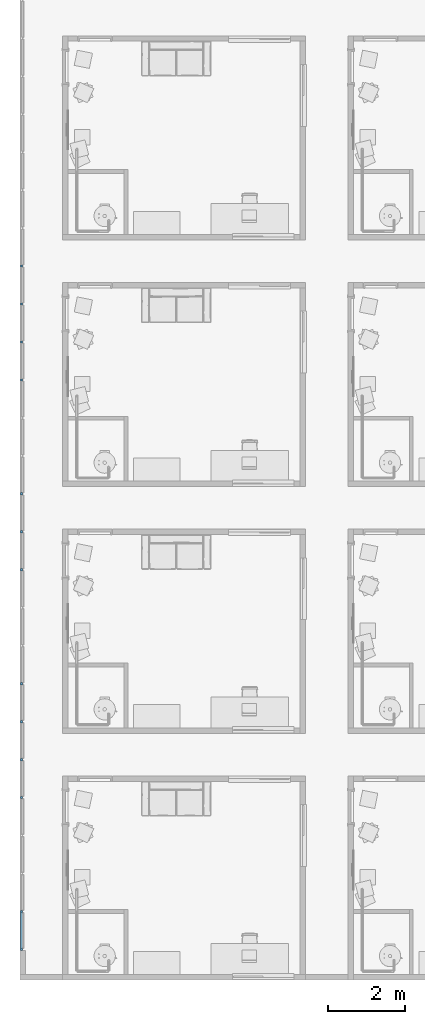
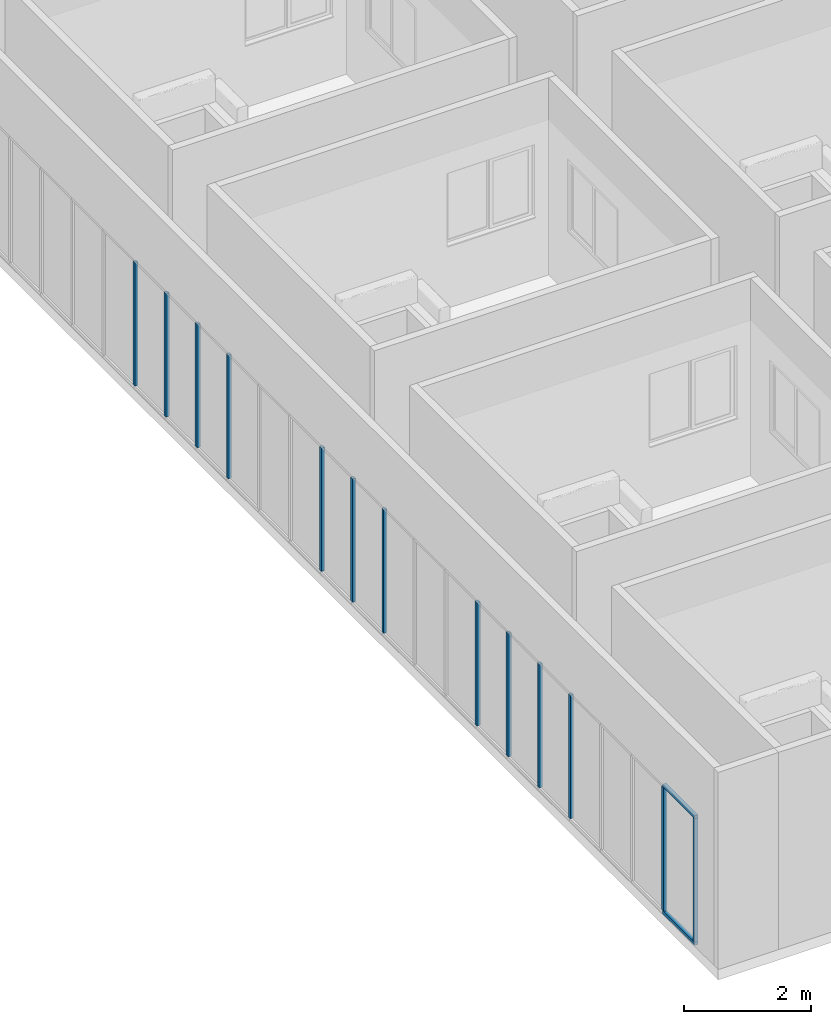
# One storey, part 1 of 72: 15 members, 1 element without a shape of its own.
"""IFC4 building model written with IfcOpenShell, lengths in centimetres."""

from ifc_helpers import new_model, entity, si_unit, converted_unit, derived_unit, direction, frame, origin, place, context, subcontext, project, spatial, indexed_curve, outline, extrude, source, transform, mapped, material, type_object, type_shapes, element, aggregate, save


model = new_model("IFC4")

# Units and contexts
model_context = context("Model", 3, precision=0.001, world=origin(), true_north=direction((6.123233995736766e-17, 1.0)))
body_context = subcontext(model_context, "Body", "Model", "MODEL_VIEW")
ifc_project = project(units=[si_unit("LENGTHUNIT", "METRE", prefix="CENTI"), si_unit("AREAUNIT", "SQUARE_METRE"), si_unit("VOLUMEUNIT", "CUBIC_METRE"), derived_unit("THERMALTRANSMITTANCEUNIT", [(si_unit("MASSUNIT", "GRAM", prefix="KILO"), 1), (si_unit("THERMODYNAMICTEMPERATUREUNIT", "KELVIN"), -1), (si_unit("TIMEUNIT", "SECOND"), -3)]), converted_unit("PLANEANGLEUNIT", "DEGREE", entity("IfcPlaneAngleMeasure", 0.017453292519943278), si_unit("PLANEANGLEUNIT", "RADIAN"), dimensions=[0, 0, 0, 0, 0, 0, 0]), derived_unit("MASSDENSITYUNIT", [(si_unit("MASSUNIT", "GRAM", prefix="KILO"), 1), (si_unit("LENGTHUNIT", "METRE"), -3)]), derived_unit("VAPORPERMEABILITYUNIT", [(si_unit("LENGTHUNIT", "METRE"), -1), (si_unit("TIMEUNIT", "SECOND"), 1)]), derived_unit("USERDEFINED", [(si_unit("MASSUNIT", "GRAM", prefix="KILO"), 1), (si_unit("TIMEUNIT", "SECOND"), -3), (si_unit("LENGTHUNIT", "METRE"), 3), (si_unit("ELECTRICCURRENTUNIT", "AMPERE"), -2)]), derived_unit("SPECIFICHEATCAPACITYUNIT", [(si_unit("THERMODYNAMICTEMPERATUREUNIT", "KELVIN"), -1), (si_unit("LENGTHUNIT", "METRE"), 2), (si_unit("TIMEUNIT", "SECOND"), -2)]), derived_unit("THERMALCONDUCTANCEUNIT", [(si_unit("MASSUNIT", "GRAM", prefix="KILO"), 1), (si_unit("THERMODYNAMICTEMPERATUREUNIT", "KELVIN"), -1), (si_unit("TIMEUNIT", "SECOND"), -3), (si_unit("LENGTHUNIT", "METRE"), 1)]), si_unit("PRESSUREUNIT", "PASCAL"), derived_unit("MODULUSOFELASTICITYUNIT", [(si_unit("MASSUNIT", "GRAM", prefix="KILO"), 1), (si_unit("LENGTHUNIT", "METRE"), -1), (si_unit("TIMEUNIT", "SECOND"), -2)]), derived_unit("THERMALEXPANSIONCOEFFICIENTUNIT", [(si_unit("THERMODYNAMICTEMPERATUREUNIT", "KELVIN"), -1)])], contexts=[model_context])

# Site, building, storey
site_placement = place(None, origin())
site = spatial("IfcSite", under=ifc_project, at=site_placement, Name="Default", CompositionType="ELEMENT")
building_placement = place(site_placement, origin())
building = spatial("IfcBuilding", under=site, at=building_placement, Name="IDS Escape Game Building", CompositionType="ELEMENT")
storey_placement = place(building_placement, frame((0.0, 0.0, 800.0)))
storey = spatial("IfcBuildingStorey", under=building, at=storey_placement, Name="02_Second Floor", CompositionType="ELEMENT", Elevation=800.0)

# Curtain wall, members
curtain_wall_type = type_object("IfcCurtainWallType", Name="Curtain Wall:ARC_31.3_CWA_LIB_bandraam vast 100cm - profiel 60x60_gen_BERSnl", PredefinedType="NOTDEFINED")
curtain_wall_placement = place(storey_placement, frame((0.0, 0.0, -800.0)))
curtain_wall = element("IfcCurtainWall", 1, at=curtain_wall_placement, inside=storey, type_object=curtain_wall_type, Name="Curtain Wall:ARC_31.3_CWA_LIB_bandraam vast 100cm - profiel 60x60_gen_BERSnl", ObjectType="Curtain Wall:ARC_31.3_CWA_LIB_bandraam vast 100cm - profiel 60x60_gen_BERSnl", PredefinedType="NOTDEFINED")
ifc_material = material(Name="<Unnamed>")
member_type_1 = type_object("IfcMemberType", Name="Rectangular Mullion:30-_Stijl_Rechthoek_Midden_B60xD60", PredefinedType="MULLION", material=ifc_material)
shared_shape_1 = source(origin(), body_context, "Body", "SweptSolid", [
    extrude(outline(indexed_curve([(-3.0, -3.0), (3.0, -3.0), (3.0, 3.0), (-3.0, 3.0), (-3.0, -3.0)], self_intersect=False)), frame((-3.0, 3.0, -238.0), z_axis=(0.0, 0.0, 1.0), x_axis=(-1.0, 0.0, 0.0)), (0.0, 0.0, 1.0), 238.00000000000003),
])
type_shapes(member_type_1, [shared_shape_1])
member_1_placement = place(curtain_wall_placement, frame((-110.0, 75.0, 806.0), z_axis=(0.0, 0.0, -1.0), x_axis=(0.0, -1.0, 0.0)))
member_1 = element("IfcMember", 2, at=member_1_placement, type_object=member_type_1, material=ifc_material, Name="Rectangular Mullion:30-_Stijl_Rechthoek_Midden_B60xD60", ObjectType="Rectangular Mullion:30-_Stijl_Rechthoek_Midden_B60xD60", PredefinedType="MULLION", context=body_context, shape_type="MappedRepresentation", body=[
    mapped(shared_shape_1, transform((0.0, 0.0, 0.0), scale=1.0)),
])
member_type_2 = type_object("IfcMemberType", Name="Rectangular Mullion:30-_Stijl_Rechthoek_Midden_B60xD60", PredefinedType="MULLION", material=ifc_material)
shared_shape_2 = source(origin(), body_context, "Body", "SweptSolid", [
    extrude(outline(indexed_curve([(-3.0, -3.0), (3.0, -3.0), (3.0, 3.0), (-3.0, 3.0), (-3.0, -3.0)], self_intersect=False)), frame((0.0, 3.0, -238.0), z_axis=(0.0, 0.0, 1.0), x_axis=(-1.0, 0.0, 0.0)), (0.0, 0.0, 1.0), 238.00000000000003),
])
type_shapes(member_type_2, [shared_shape_2])
member_2_placement = place(curtain_wall_placement, frame((-110.0, 1845.4838709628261, 806.0), z_axis=(0.0, 0.0, -1.0), x_axis=(0.0, -1.0, 0.0)))
member_2 = element("IfcMember", 3, at=member_2_placement, type_object=member_type_2, material=ifc_material, Name="Rectangular Mullion:30-_Stijl_Rechthoek_Midden_B60xD60", ObjectType="Rectangular Mullion:30-_Stijl_Rechthoek_Midden_B60xD60", PredefinedType="MULLION", context=body_context, shape_type="MappedRepresentation", body=[
    mapped(shared_shape_2, transform((0.0, 0.0, 0.0), scale=1.0)),
])
member_3_placement = place(curtain_wall_placement, frame((-110.0, 1747.2903225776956, 806.0), z_axis=(0.0, 0.0, -1.0), x_axis=(0.0, -1.0, 0.0)))
member_3 = element("IfcMember", 4, at=member_3_placement, type_object=member_type_2, material=ifc_material, Name="Rectangular Mullion:30-_Stijl_Rechthoek_Midden_B60xD60", ObjectType="Rectangular Mullion:30-_Stijl_Rechthoek_Midden_B60xD60", PredefinedType="MULLION", context=body_context, shape_type="MappedRepresentation", body=[
    mapped(shared_shape_2, transform((0.0, 0.0, 0.0), scale=1.0)),
])
member_4_placement = place(curtain_wall_placement, frame((-110.0, 1649.0967741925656, 806.0), z_axis=(0.0, 0.0, -1.0), x_axis=(0.0, -1.0, 0.0)))
member_4 = element("IfcMember", 5, at=member_4_placement, type_object=member_type_2, material=ifc_material, Name="Rectangular Mullion:30-_Stijl_Rechthoek_Midden_B60xD60", ObjectType="Rectangular Mullion:30-_Stijl_Rechthoek_Midden_B60xD60", PredefinedType="MULLION", context=body_context, shape_type="MappedRepresentation", body=[
    mapped(shared_shape_2, transform((0.0, 0.0, 0.0), scale=1.0)),
])
member_5_placement = place(curtain_wall_placement, frame((-110.0, 1550.9032258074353, 806.0), z_axis=(0.0, 0.0, -1.0), x_axis=(0.0, -1.0, 0.0)))
member_5 = element("IfcMember", 6, at=member_5_placement, type_object=member_type_2, material=ifc_material, Name="Rectangular Mullion:30-_Stijl_Rechthoek_Midden_B60xD60", ObjectType="Rectangular Mullion:30-_Stijl_Rechthoek_Midden_B60xD60", PredefinedType="MULLION", context=body_context, shape_type="MappedRepresentation", body=[
    mapped(shared_shape_2, transform((0.0, 0.0, 0.0), scale=1.0)),
])
member_6_placement = place(curtain_wall_placement, frame((-110.0, 1256.3225806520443, 806.0), z_axis=(0.0, 0.0, -1.0), x_axis=(0.0, -1.0, 0.0)))
member_6 = element("IfcMember", 7, at=member_6_placement, type_object=member_type_2, material=ifc_material, Name="Rectangular Mullion:30-_Stijl_Rechthoek_Midden_B60xD60", ObjectType="Rectangular Mullion:30-_Stijl_Rechthoek_Midden_B60xD60", PredefinedType="MULLION", context=body_context, shape_type="MappedRepresentation", body=[
    mapped(shared_shape_2, transform((0.0, 0.0, 0.0), scale=1.0)),
])
member_7_placement = place(curtain_wall_placement, frame((-110.0, 1158.1290322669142, 806.0), z_axis=(0.0, 0.0, -1.0), x_axis=(0.0, -1.0, 0.0)))
member_7 = element("IfcMember", 8, at=member_7_placement, type_object=member_type_2, material=ifc_material, Name="Rectangular Mullion:30-_Stijl_Rechthoek_Midden_B60xD60", ObjectType="Rectangular Mullion:30-_Stijl_Rechthoek_Midden_B60xD60", PredefinedType="MULLION", context=body_context, shape_type="MappedRepresentation", body=[
    mapped(shared_shape_2, transform((0.0, 0.0, 0.0), scale=1.0)),
])
member_8_placement = place(curtain_wall_placement, frame((-110.0, 1059.9354838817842, 806.0), z_axis=(0.0, 0.0, -1.0), x_axis=(0.0, -1.0, 0.0)))
member_8 = element("IfcMember", 9, at=member_8_placement, type_object=member_type_2, material=ifc_material, Name="Rectangular Mullion:30-_Stijl_Rechthoek_Midden_B60xD60", ObjectType="Rectangular Mullion:30-_Stijl_Rechthoek_Midden_B60xD60", PredefinedType="MULLION", context=body_context, shape_type="MappedRepresentation", body=[
    mapped(shared_shape_2, transform((0.0, 0.0, 0.0), scale=1.0)),
])
member_9_placement = place(curtain_wall_placement, frame((-110.0, 765.3548387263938, 806.0), z_axis=(0.0, 0.0, -1.0), x_axis=(0.0, -1.0, 0.0)))
member_9 = element("IfcMember", 10, at=member_9_placement, type_object=member_type_2, material=ifc_material, Name="Rectangular Mullion:30-_Stijl_Rechthoek_Midden_B60xD60", ObjectType="Rectangular Mullion:30-_Stijl_Rechthoek_Midden_B60xD60", PredefinedType="MULLION", context=body_context, shape_type="MappedRepresentation", body=[
    mapped(shared_shape_2, transform((0.0, 0.0, 0.0), scale=1.0)),
])
member_10_placement = place(curtain_wall_placement, frame((-110.0, 667.1612903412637, 806.0), z_axis=(0.0, 0.0, -1.0), x_axis=(0.0, -1.0, 0.0)))
member_10 = element("IfcMember", 11, at=member_10_placement, type_object=member_type_2, material=ifc_material, Name="Rectangular Mullion:30-_Stijl_Rechthoek_Midden_B60xD60", ObjectType="Rectangular Mullion:30-_Stijl_Rechthoek_Midden_B60xD60", PredefinedType="MULLION", context=body_context, shape_type="MappedRepresentation", body=[
    mapped(shared_shape_2, transform((0.0, 0.0, 0.0), scale=1.0)),
])
member_11_placement = place(curtain_wall_placement, frame((-110.0, 568.9677419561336, 806.0), z_axis=(0.0, 0.0, -1.0), x_axis=(0.0, -1.0, 0.0)))
member_11 = element("IfcMember", 12, at=member_11_placement, type_object=member_type_2, material=ifc_material, Name="Rectangular Mullion:30-_Stijl_Rechthoek_Midden_B60xD60", ObjectType="Rectangular Mullion:30-_Stijl_Rechthoek_Midden_B60xD60", PredefinedType="MULLION", context=body_context, shape_type="MappedRepresentation", body=[
    mapped(shared_shape_2, transform((0.0, 0.0, 0.0), scale=1.0)),
])
member_12_placement = place(curtain_wall_placement, frame((-110.0, 470.77419357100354, 806.0), z_axis=(0.0, 0.0, -1.0), x_axis=(0.0, -1.0, 0.0)))
member_12 = element("IfcMember", 13, at=member_12_placement, type_object=member_type_2, material=ifc_material, Name="Rectangular Mullion:30-_Stijl_Rechthoek_Midden_B60xD60", ObjectType="Rectangular Mullion:30-_Stijl_Rechthoek_Midden_B60xD60", PredefinedType="MULLION", context=body_context, shape_type="MappedRepresentation", body=[
    mapped(shared_shape_2, transform((0.0, 0.0, 0.0), scale=1.0)),
])
member_13_placement = place(curtain_wall_placement, frame((-110.0, 176.1935484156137, 806.0), z_axis=(0.0, 0.0, -1.0), x_axis=(0.0, -1.0, 0.0)))
member_13 = element("IfcMember", 14, at=member_13_placement, type_object=member_type_2, material=ifc_material, Name="Rectangular Mullion:30-_Stijl_Rechthoek_Midden_B60xD60", ObjectType="Rectangular Mullion:30-_Stijl_Rechthoek_Midden_B60xD60", PredefinedType="MULLION", context=body_context, shape_type="MappedRepresentation", body=[
    mapped(shared_shape_2, transform((0.0, 0.0, 0.0), scale=1.0)),
])
member_type_3 = type_object("IfcMemberType", Name="Rectangular Mullion:30-_Stijl_Rechthoek_Midden_B60xD60", PredefinedType="MULLION", material=ifc_material)
shared_shape_3 = source(origin(), body_context, "Body", "SweptSolid", [
    extrude(outline(indexed_curve([(-3.0, -3.0), (3.0, -3.0), (3.0, 3.0), (-3.0, 3.0), (-3.0, -3.0)], self_intersect=False)), frame((-3.0, 3.0, -101.193548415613), z_axis=(0.0, 0.0, 1.0), x_axis=(-1.0, 0.0, 0.0)), (0.0, 0.0, 1.0), 101.193548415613),
])
type_shapes(member_type_3, [shared_shape_3])
member_14_placement = place(curtain_wall_placement, frame((-110.0, 75.0, 1050.0), z_axis=(0.0, -1.0, 0.0), x_axis=(0.0, 0.0, 1.0)))
member_14 = element("IfcMember", 15, at=member_14_placement, type_object=member_type_3, material=ifc_material, Name="Rectangular Mullion:30-_Stijl_Rechthoek_Midden_B60xD60", ObjectType="Rectangular Mullion:30-_Stijl_Rechthoek_Midden_B60xD60", PredefinedType="MULLION", context=body_context, shape_type="MappedRepresentation", body=[
    mapped(shared_shape_3, transform((0.0, 0.0, 0.0), scale=1.0)),
])
member_type_4 = type_object("IfcMemberType", Name="Rectangular Mullion:30-_Stijl_Rechthoek_Midden_B60xD60", PredefinedType="MULLION", material=ifc_material)
shared_shape_4 = source(origin(), body_context, "Body", "SweptSolid", [
    extrude(outline(indexed_curve([(-3.0, -3.0), (3.0, -3.0), (3.0, 3.0), (-3.0, 3.0), (-3.0, -3.0)], self_intersect=False)), frame((-3.0, 3.0, -101.19354841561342), z_axis=(0.0, 0.0, 1.0), x_axis=(-1.0, 0.0, 0.0)), (0.0, 0.0, 1.0), 101.19354841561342),
])
type_shapes(member_type_4, [shared_shape_4])
member_15_placement = place(curtain_wall_placement, frame((-110.0, 176.1935484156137, 800.0), z_axis=(0.0, 1.0, 0.0), x_axis=(0.0, 0.0, -1.0)))
member_15 = element("IfcMember", 16, at=member_15_placement, type_object=member_type_4, material=ifc_material, Name="Rectangular Mullion:30-_Stijl_Rechthoek_Midden_B60xD60", ObjectType="Rectangular Mullion:30-_Stijl_Rechthoek_Midden_B60xD60", PredefinedType="MULLION", context=body_context, shape_type="MappedRepresentation", body=[
    mapped(shared_shape_4, transform((0.0, 0.0, 0.0), scale=1.0)),
])
aggregate(curtain_wall, [member_14, member_15, member_1, member_2, member_3, member_4, member_5, member_6, member_7, member_8, member_9, member_10, member_11, member_12, member_13])

save(model, "model.ifc")
